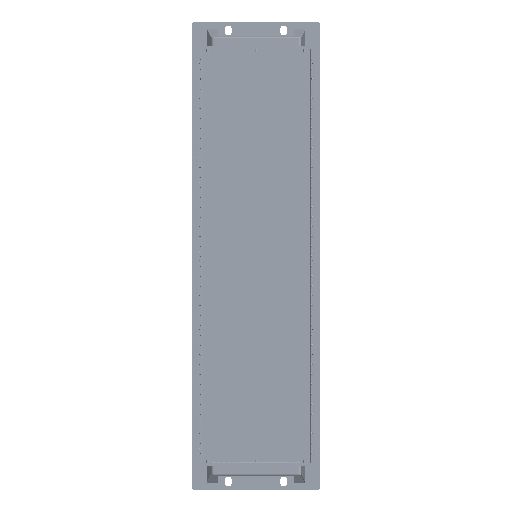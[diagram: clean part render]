
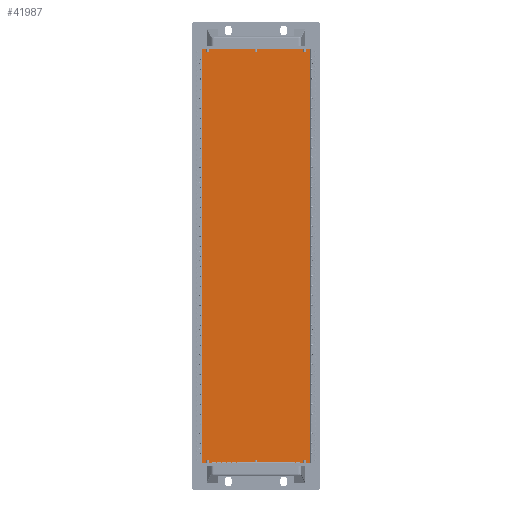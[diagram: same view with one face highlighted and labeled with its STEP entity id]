
A CAD part, left-side view. The second image highlights one B-rep face of the part: STEP entity #41987.
In plain terms, the highlighted planar face has unit normal (-1, 0, 0) as drawn and (0, 0, -1) by its records, which use the part's own axes.
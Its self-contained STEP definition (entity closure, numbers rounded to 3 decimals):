
#1514 = LINE ( 'NONE', #97145, #17589 ) ;
#5072 = CARTESIAN_POINT ( 'NONE',  ( 214.65, -64.9, -2. ) ) ;
#17252 = ORIENTED_EDGE ( 'NONE', *, *, #73419, .F. ) ;
#17589 = VECTOR ( 'NONE', #83624, 1000. ) ;
#19262 = DIRECTION ( 'NONE',  ( -1., 0., 0. ) ) ;
#31883 = CARTESIAN_POINT ( 'NONE',  ( -214.65, 64.9, -2. ) ) ;
#33446 = CARTESIAN_POINT ( 'NONE',  ( -214.65, -64.9, -2. ) ) ;
#34000 = EDGE_CURVE ( 'NONE', #175756, #201886, #1514, .T. ) ;
#35703 = ORIENTED_EDGE ( 'NONE', *, *, #34000, .F. ) ;
#41152 = VECTOR ( 'NONE', #19262, 1000. ) ;
#41987 = ADVANCED_FACE ( 'NONE', ( #205370 ), #59738, .F. ) ;
#42612 = CARTESIAN_POINT ( 'NONE',  ( 0., 0., -2. ) ) ;
#47172 = EDGE_LOOP ( 'NONE', ( #132458, #35703, #17252, #125676 ) ) ;
#56504 = AXIS2_PLACEMENT_3D ( 'NONE', #42612, #162880, #180850 ) ;
#57825 = CARTESIAN_POINT ( 'NONE',  ( -214.65, 64.9, -2. ) ) ;
#59738 = PLANE ( 'NONE',  #56504 ) ;
#60596 = LINE ( 'NONE', #220036, #76651 ) ;
#70392 = LINE ( 'NONE', #120929, #41152 ) ;
#73419 = EDGE_CURVE ( 'NONE', #203682, #175756, #185276, .T. ) ;
#75561 = VECTOR ( 'NONE', #97674, 1000. ) ;
#76651 = VECTOR ( 'NONE', #186397, 1000. ) ;
#83624 = DIRECTION ( 'NONE',  ( 1., 0., 0. ) ) ;
#86570 = VERTEX_POINT ( 'NONE', #86961 ) ;
#86961 = CARTESIAN_POINT ( 'NONE',  ( 214.65, 64.9, -2. ) ) ;
#97145 = CARTESIAN_POINT ( 'NONE',  ( -215.75, -64.9, -2. ) ) ;
#97674 = DIRECTION ( 'NONE',  ( 0., -1., 0. ) ) ;
#102945 = EDGE_CURVE ( 'NONE', #86570, #203682, #70392, .T. ) ;
#120929 = CARTESIAN_POINT ( 'NONE',  ( 215.75, 64.9, -2. ) ) ;
#125676 = ORIENTED_EDGE ( 'NONE', *, *, #102945, .F. ) ;
#132458 = ORIENTED_EDGE ( 'NONE', *, *, #136654, .F. ) ;
#136654 = EDGE_CURVE ( 'NONE', #201886, #86570, #60596, .T. ) ;
#162880 = DIRECTION ( 'NONE',  ( 0., 0., 1. ) ) ;
#175756 = VERTEX_POINT ( 'NONE', #33446 ) ;
#180850 = DIRECTION ( 'NONE',  ( 1., 0., 0. ) ) ;
#185276 = LINE ( 'NONE', #31883, #75561 ) ;
#186397 = DIRECTION ( 'NONE',  ( 0., 1., 0. ) ) ;
#201886 = VERTEX_POINT ( 'NONE', #5072 ) ;
#203682 = VERTEX_POINT ( 'NONE', #57825 ) ;
#205370 = FACE_OUTER_BOUND ( 'NONE', #47172, .T. ) ;
#220036 = CARTESIAN_POINT ( 'NONE',  ( 214.65, -64.9, -2. ) ) ;
